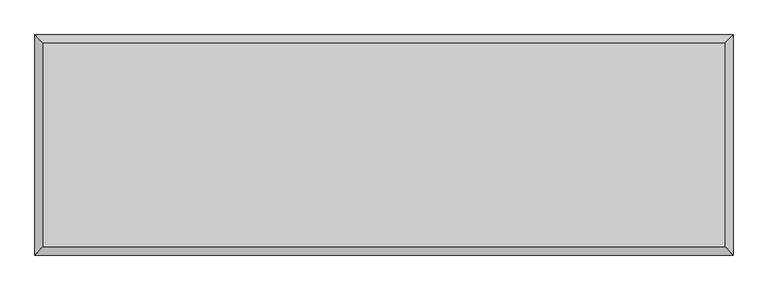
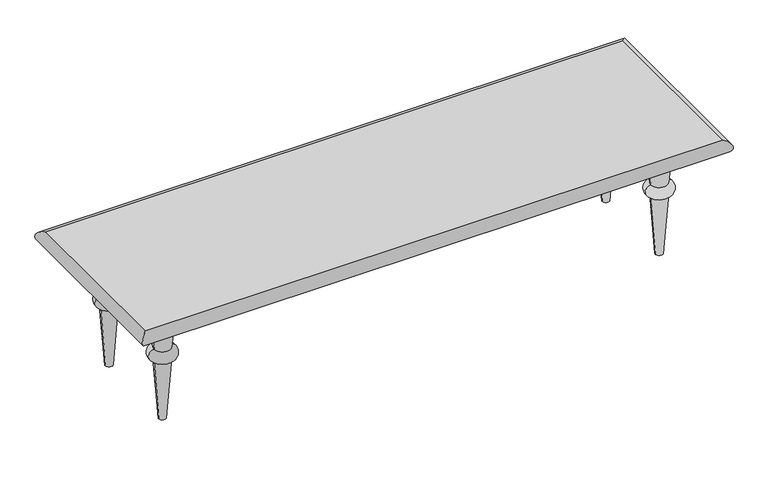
"""IFC4 building model written with IfcOpenShell, lengths in millimetres: furniture geometry, 1_25_Ручки для опорных плоскостей : 1_25_Ручки для опорных плоскостей."""

import ifcopenshell
import ifcopenshell.guid

model = None  # the IFC model being written
_history = None  # IfcOwnerHistory: only IFC2X3 demands one
_inside = {}  # id of a spatial element -> (the spatial element, [elements in it])
_under = {}  # id of a project, library or spatial element -> (it, [spatial elements below it])
_declared = {}  # id of a project -> (the project, [libraries it declares])
_typed = {}  # id of a type object -> (the type object, [elements of that type])
_made_of = {}  # id of a material, layer set ... -> (it, [elements and type objects made of it])


def new_model(schema):
    """Start an empty IFC model of exactly this schema.

    Asked for "IFC4X3", IfcOpenShell would pick the latest addendum, in which some entities
    have other attributes; the version numbers below select the first issue.
    IFC2X3 requires an IfcOwnerHistory on every rooted entity: one is made here for all.
    """
    global model, _history
    if schema == "IFC4X3":
        model = ifcopenshell.file(schema_version=(4, 3, 0, 0))
    else:
        model = ifcopenshell.file(schema=schema)
    _inside.clear()
    _under.clear()
    _declared.clear()
    _typed.clear()
    _made_of.clear()
    _history = None
    if model.schema == "IFC2X3":
        org = make("IfcOrganization", Name="unknown")
        user = make(
            "IfcPersonAndOrganization",
            ThePerson=make("IfcPerson", FamilyName="unknown"),
            TheOrganization=org,
        )
        app = make(
            "IfcApplication",
            ApplicationDeveloper=org,
            Version="unknown",
            ApplicationFullName="unknown",
            ApplicationIdentifier="unknown",
        )
        _history = make(
            "IfcOwnerHistory",
            OwningUser=user,
            OwningApplication=app,
            ChangeAction="ADDED",
            CreationDate=0,
        )
    return model


def make(cls, **values):
    """One entity of the class cls with the attributes given. An attribute that is None is left unset."""
    return model.create_entity(
        cls, **{name: value for name, value in values.items() if value is not None}
    )


def rooted(cls, **values):
    """An entity with a GlobalId (a new one), such as an element, a storey or a relation."""
    return make(cls, GlobalId=ifcopenshell.guid.new(), OwnerHistory=_history, **values)


def si_unit(unit_type, name, prefix=None):
    """IfcSIUnit, for example si_unit("LENGTHUNIT", "METRE", prefix="MILLI")."""
    return make("IfcSIUnit", UnitType=unit_type, Prefix=prefix, Name=name)


def assignment(units):
    """IfcUnitAssignment: the units of a project."""
    return None if units is None else make("IfcUnitAssignment", Units=units)


def point(xyz):
    """IfcCartesianPoint."""
    return None if xyz is None else make("IfcCartesianPoint", Coordinates=xyz)


def direction(xyz):
    """IfcDirection."""
    return None if xyz is None else make("IfcDirection", DirectionRatios=xyz)


def frame(location, z_axis=None, x_axis=None):
    """IfcAxis2Placement3D, a coordinate frame: its origin and axes. An axis left out is left unset."""
    return make(
        "IfcAxis2Placement3D",
        Location=point(location),
        Axis=direction(z_axis),
        RefDirection=direction(x_axis),
    )


def origin():
    """The frame at (0, 0, 0) with its axes left unset."""
    return frame((0.0, 0.0, 0.0))


def place(relative_to, where):
    """IfcLocalPlacement: puts the frame where relative to a parent placement (None: the world)."""
    return make(
        "IfcLocalPlacement", PlacementRelTo=relative_to, RelativePlacement=where
    )


def context(
    kind, dimensions, precision=None, world=None, true_north=None, identifier=None
):
    """IfcGeometricRepresentationContext, for example the 3D "Model" context."""
    return make(
        "IfcGeometricRepresentationContext",
        ContextIdentifier=identifier,
        ContextType=kind,
        CoordinateSpaceDimension=dimensions,
        Precision=precision,
        WorldCoordinateSystem=world,
        TrueNorth=true_north,
    )


def project(units=None, contexts=None):
    """IfcProject with its units and contexts."""
    return rooted(
        "IfcProject",
        Name="project",
        RepresentationContexts=contexts,
        UnitsInContext=assignment(units),
    )


def spatial(cls, under=None, at=None, **own):
    """A site, building, storey or space (cls), placed at a placement, below another one or the project."""
    s = rooted(cls, ObjectPlacement=at, **own)
    if under is not None:
        _under.setdefault(under.id(), (under, []))[1].append(s)
    return s


def polyline(points):
    """IfcPolyline through the points."""
    return make("IfcPolyline", Points=[point(p) for p in points])


def circle_curve(where, radius):
    """IfcCircle in the frame where."""
    return make("IfcCircle", Position=where, Radius=radius)


def ellipse_curve(where, semi_axis1, semi_axis2):
    """IfcEllipse in the frame where."""
    return make(
        "IfcEllipse", Position=where, SemiAxis1=semi_axis1, SemiAxis2=semi_axis2
    )


def trimmed(basis, trim1, trim2, sense, master):
    """IfcTrimmedCurve: the piece of a basis curve between two trims."""
    return make(
        "IfcTrimmedCurve",
        BasisCurve=basis,
        Trim1=trim1,
        Trim2=trim2,
        SenseAgreement=sense,
        MasterRepresentation=master,
    )


def shape(context_of_items, identifier, shape_type, items):
    """IfcShapeRepresentation: the items that make up one representation, for example the "Body"."""
    return make(
        "IfcShapeRepresentation",
        ContextOfItems=context_of_items,
        RepresentationIdentifier=identifier,
        RepresentationType=shape_type,
        Items=items,
    )


def source(mapping_origin, context_of_items, identifier, shape_type, items):
    """IfcRepresentationMap: a shape defined once, which mapped items show again and again."""
    return make(
        "IfcRepresentationMap",
        MappingOrigin=mapping_origin,
        MappedRepresentation=shape(context_of_items, identifier, shape_type, items),
    )


def transform(
    local_origin,
    x_axis=None,
    y_axis=None,
    z_axis=None,
    scale=None,
    scale2=None,
    scale3=None,
    uniform=True,
):
    """IfcCartesianTransformationOperator3D, or its non-uniform kind. x_axis, y_axis, z_axis: its Axis1, 2, 3."""
    if uniform:
        return make(
            "IfcCartesianTransformationOperator3D",
            Axis1=direction(x_axis),
            Axis2=direction(y_axis),
            LocalOrigin=point(local_origin),
            Scale=scale,
            Axis3=direction(z_axis),
        )
    return make(
        "IfcCartesianTransformationOperator3DnonUniform",
        Axis1=direction(x_axis),
        Axis2=direction(y_axis),
        LocalOrigin=point(local_origin),
        Scale=scale,
        Axis3=direction(z_axis),
        Scale2=scale2,
        Scale3=scale3,
    )


def mapped(mapping_source, mapping_target):
    """IfcMappedItem: shows the shape of a source again, moved by a transform."""
    return make(
        "IfcMappedItem", MappingSource=mapping_source, MappingTarget=mapping_target
    )


def made_of(thing, what):
    """Note that an element or type object is made of a material, layer set ...; save() writes the relation."""
    if what is not None:
        _made_of.setdefault(what.id(), (what, []))[1].append(thing)
    return thing


def element(
    cls,
    number,
    at=None,
    inside=None,
    cuts=None,
    type_object=None,
    material=None,
    context=None,
    identifier="Body",
    shape_type=None,
    held_by="IfcProductDefinitionShape",
    body=None,
    shapes=None,
    **own,
):
    """One element of the class cls, such as IfcWall. Its Tag is "e" and its number.

    at: its placement. inside: the storey or other place that contains it. cuts: it is an
    opening in that element (IfcRelVoidsElement). A single representation is given by context,
    identifier, shape_type and body (its items); several are given by shapes. held_by: the class
    of the entity that holds the representations. save() writes the other relations.
    """
    e = rooted(cls, Tag="e%d" % number, ObjectPlacement=at, **own)
    if body is not None:
        shapes = [shape(context, identifier, shape_type, body)]
    if shapes is not None:
        e.Representation = make(held_by, Representations=shapes)
    if inside is not None:
        _inside.setdefault(inside.id(), (inside, []))[1].append(e)
    if cuts is not None:
        rooted(
            "IfcRelVoidsElement", RelatingBuildingElement=cuts, RelatedOpeningElement=e
        )
    if type_object is not None:
        _typed.setdefault(type_object.id(), (type_object, []))[1].append(e)
    return made_of(e, material)


def aggregate(whole, parts):
    """IfcRelAggregates: a whole, such as a stair, and the parts it consists of."""
    return rooted("IfcRelAggregates", RelatingObject=whole, RelatedObjects=parts)


def save(model, path):
    """Write the relations noted so far, then the file.

    IfcRelAggregates (storeys below a building ...), IfcRelContainedInSpatialStructure (elements
    in a storey), IfcRelDefinesByType, IfcRelAssociatesMaterial and IfcRelDeclares: one each for
    every whole, place, type object, material and project.
    """
    for whole, parts in _under.values():
        aggregate(whole, parts)
    for where, things in _inside.values():
        rooted(
            "IfcRelContainedInSpatialStructure",
            RelatedElements=things,
            RelatingStructure=where,
        )
    for kind, things in _typed.values():
        rooted("IfcRelDefinesByType", RelatedObjects=things, RelatingType=kind)
    for what, things in _made_of.values():
        rooted("IfcRelAssociatesMaterial", RelatedObjects=things, RelatingMaterial=what)
    for by, libraries in _declared.values():
        rooted("IfcRelDeclares", RelatingContext=by, RelatedDefinitions=libraries)
    model.write(path)


def plane_surface(at):
    """IfcPlane: the flat surface through the origin of the frame at, square to its z axis."""
    return make("IfcPlane", Position=at)


def cylinder_surface(at, radius):
    """IfcCylindricalSurface: all points at the distance radius from the z axis of the frame at."""
    return make("IfcCylindricalSurface", Position=at, Radius=radius)


def revolved_surface(curve, axis_point, axis_direction):
    """IfcSurfaceOfRevolution: the curve turned about the line through axis_point along axis_direction."""
    return make(
        "IfcSurfaceOfRevolution",
        SweptCurve=make("IfcArbitraryOpenProfileDef", ProfileType="CURVE", Curve=curve),
        AxisPosition=make("IfcAxis1Placement", Location=point(axis_point), Axis=direction(axis_direction)),
    )


def advanced_brep(points, edges, surfaces, faces):
    """IfcAdvancedBrep: a solid bounded by faces that lie on surfaces and meet in shared edges.

    An edge is (start, end): straight between two places in points (the first is 0);
    or (start, end, curve); or (start, end, curve, False) where it runs against its curve.
    A face is (place in surfaces, loops), or (place, loops, False) where it looks against
    its surface's normal. A loop lists edges by number (the first is 1), with a minus sign
    where the edge is run from its end to its start. The first loop is the outer one.
    """
    corners = [point(p) for p in points]
    vertices = [make("IfcVertexPoint", VertexGeometry=c) for c in corners]
    made = []
    for start, end, *more in edges:
        made.append(
            make(
                "IfcEdgeCurve",
                EdgeStart=vertices[start],
                EdgeEnd=vertices[end],
                EdgeGeometry=more[0] if more else make("IfcPolyline", Points=[corners[start], corners[end]]),
                SameSense=more[1] if len(more) > 1 else True,
            )
        )
    hull = []
    for where, loops, *sense in faces:
        bounds = []
        for j, loop in enumerate(loops):
            ring = [make("IfcOrientedEdge", EdgeElement=made[abs(k) - 1], Orientation=k > 0) for k in loop]
            bounds.append(
                make(
                    "IfcFaceOuterBound" if j == 0 else "IfcFaceBound",
                    Bound=make("IfcEdgeLoop", EdgeList=ring),
                    Orientation=True,
                )
            )
        hull.append(make("IfcAdvancedFace", Bounds=bounds, FaceSurface=surfaces[where], SameSense=sense[0] if sense else True))
    return make("IfcAdvancedBrep", Outer=make("IfcClosedShell", CfsFaces=hull))


def furniture_e70da886(model_context):
    return source(origin(), model_context, "Body", "AdvancedBrep", [
        advanced_brep(
        [(-2000.0, -600.0, 900.0), (-2000.0, -600.0, 810.0), (2000.0, -600.0, 810.0), (2000.0, -600.0, 900.0), (2000.0, 600.0, 810.0), (2000.0, 600.0, 900.0), (-2000.0, 600.0, 810.0), (-2000.0, 600.0, 900.0)],
        [
            (0, 1, ellipse_curve(frame((-2000.0, -600.0, 855.0), z_axis=(0.7071067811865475, -0.7071067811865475, 0.0), x_axis=(-0.7071067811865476, -0.7071067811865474, 0.0)), 63.6396103, 45.0)),
            (1, 2),
            (2, 3, ellipse_curve(frame((2000.0, -600.0, 855.0), z_axis=(-0.7071067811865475, -0.7071067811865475, 0.0), x_axis=(-0.7071067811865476, 0.7071067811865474, 0.0)), 63.6396103, 45.0)),
            (3, 0),
            (2, 4),
            (4, 5, ellipse_curve(frame((2000.0, 600.0, 855.0), z_axis=(0.7071067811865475, -0.7071067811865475, 0.0), x_axis=(-0.7071067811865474, -0.7071067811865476, 0.0)), 63.6396103, 45.0)),
            (5, 3),
            (4, 6),
            (6, 7, ellipse_curve(frame((-2000.0, 600.0, 855.0), z_axis=(0.7071067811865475, 0.7071067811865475, 0.0), x_axis=(0.7071067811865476, -0.7071067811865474, 0.0)), 63.6396103, 45.0)),
            (7, 5),
            (0, 7),
            (6, 1),
        ],
        [
            cylinder_surface(frame((-2000.0, -600.0, 855.0), z_axis=(-1.0, 0.0, 0.0), x_axis=(0.0, 1.0, 0.0)), 45.0),
            cylinder_surface(frame((2000.0, -600.0, 855.0), z_axis=(0.0, -1.0, 0.0), x_axis=(-1.0, 0.0, 0.0)), 45.0),
            cylinder_surface(frame((2000.0, 600.0, 855.0), z_axis=(1.0, 0.0, 0.0), x_axis=(0.0, -1.0, 0.0)), 45.0),
            cylinder_surface(frame((-2000.0, 600.0, 855.0), z_axis=(0.0, 1.0, 0.0), x_axis=(1.0, 0.0, 0.0)), 45.0),
            plane_surface(frame((-2000.0, 600.0, 900.0), z_axis=(0.0, 0.0, 1.0), x_axis=(-1.0, 0.0, 0.0))),
            plane_surface(frame((-2000.0, 600.0, 810.0), z_axis=(0.0, 0.0, -1.0), x_axis=(1.0, 0.0, 0.0))),
        ],
        [
            (0, [[1, 2, 3, 4]]),
            (1, [[-3, 5, 6, 7]]),
            (2, [[-6, 8, 9, 10]]),
            (3, [[-1, 11, -9, 12]]),
            (4, [[-4, -7, -10, -11]]),
            (5, [[-2, -12, -8, -5]]),
        ],
    ),
        advanced_brep(
        [(1695.0204938, 320.0, 0.0), (1744.9795062, 320.0, 0.0), (1777.0879779, 320.0, 439.1725378), (1662.9120221, 320.0, 439.1725378), (1777.0879779, 320.0, 519.1725378), (1662.9120221, 320.0, 519.1725378), (1803.0131284, 320.0, 810.0), (1636.9868716, 320.0, 810.0), (1720.0, 320.0, 810.0), (1720.0, 320.0, 0.0)],
        [
            (0, 1, circle_curve(frame((1720.0, 320.0, 0.0), z_axis=(0.0, 0.0, 1.0), x_axis=(1.0, 0.0, 0.0)), 24.9795062)),
            (1, 2),
            (2, 3, circle_curve(frame((1720.0, 320.0, 439.1725378), z_axis=(0.0, 0.0, -1.0), x_axis=(1.0, 0.0, 0.0)), 57.0879779)),
            (3, 0),
            (1, 0, circle_curve(frame((1720.0, 320.0, 0.0), z_axis=(0.0, 0.0, 1.0), x_axis=(1.0, 0.0, 0.0)), 24.9795062)),
            (3, 2, circle_curve(frame((1720.0, 320.0, 439.1725378), z_axis=(0.0, 0.0, -1.0), x_axis=(1.0, 0.0, 0.0)), 57.0879779)),
            (2, 4, circle_curve(frame((1777.0879779, 320.0, 479.1725378), z_axis=(0.0, -1.0, 0.0), x_axis=(1.0, 0.0, 0.0)), 40.0)),
            (4, 5, circle_curve(frame((1720.0, 320.0, 519.1725378), z_axis=(0.0, 0.0, -1.0), x_axis=(1.0, 0.0, 0.0)), 57.0879779)),
            (5, 3, circle_curve(frame((1662.9120221, 320.0, 479.1725378), z_axis=(0.0, -1.0, 0.0), x_axis=(-1.0, 0.0, 0.0)), 40.0)),
            (5, 4, circle_curve(frame((1720.0, 320.0, 519.1725378), z_axis=(0.0, 0.0, -1.0), x_axis=(1.0, 0.0, 0.0)), 57.0879779)),
            (4, 6),
            (6, 7, circle_curve(frame((1720.0, 320.0, 810.0), z_axis=(0.0, 0.0, -1.0), x_axis=(1.0, 0.0, 0.0)), 83.0131284)),
            (7, 5),
            (7, 6, circle_curve(frame((1720.0, 320.0, 810.0), z_axis=(0.0, 0.0, -1.0), x_axis=(1.0, 0.0, 0.0)), 83.0131284)),
            (6, 8),
            (8, 7),
            (9, 1),
            (0, 9),
        ],
        [
            revolved_surface(polyline([(1777.0879779, 320.0, 439.1725378), (1744.9795062, 320.0, 0.0)]), (1720.0, 320.0, 2438.6930747), (0.0, 0.0, -1.0)),
            revolved_surface(trimmed(ellipse_curve(frame((1777.0879779, 320.0, 479.1725378), z_axis=(0.0, 1.0, 0.0), x_axis=(1.0, 0.0, 0.0)), 40.0, 40.0), [point((1777.0879779, 320.0, 519.1725378))], [point((1777.0879779, 320.0, 439.1725378))], True, "CARTESIAN"), (1720.0, 320.0, 2438.6930747), (0.0, 0.0, -1.0)),
            revolved_surface(polyline([(1803.0131284, 320.0, 810.0), (1777.0879779, 320.0, 519.1725378)]), (1720.0, 320.0, 2438.6930747), (0.0, 0.0, -1.0)),
            plane_surface(frame((1720.0, 320.0, 810.0), z_axis=(0.0, 0.0, 1.0), x_axis=(1.0, 0.0, 0.0))),
            plane_surface(frame((1720.0, 320.0, 0.0), z_axis=(0.0, 0.0, -1.0), x_axis=(1.0, 0.0, 0.0))),
        ],
        [
            (0, [[1, 2, 3, 4]]),
            (0, [[5, -4, 6, -2]]),
            (1, [[-3, 7, 8, 9]]),
            (1, [[-6, -9, 10, -7]]),
            (2, [[-8, 11, 12, 13]]),
            (2, [[-10, -13, 14, -11]]),
            (3, [[-12, 15, 16]]),
            (3, [[-14, -16, -15]]),
            (4, [[17, -1, 18]]),
            (4, [[-18, -5, -17]]),
        ],
    ),
        advanced_brep(
        [(-1662.9120221, 320.0, 439.1725378), (-1777.0879779, 320.0, 439.1725378), (-1744.9795062, 320.0, 0.0), (-1695.0204938, 320.0, 0.0), (-1662.9120221, 320.0, 519.1725378), (-1777.0879779, 320.0, 519.1725378), (-1636.9868716, 320.0, 810.0), (-1803.0131284, 320.0, 810.0), (-1720.0, 320.0, 810.0), (-1720.0, 320.0, 0.0)],
        [
            (0, 1, circle_curve(frame((-1720.0, 320.0, 439.1725378), z_axis=(0.0, 0.0, -1.0), x_axis=(-1.0, 0.0, 0.0)), 57.0879779)),
            (1, 2),
            (2, 3, circle_curve(frame((-1720.0, 320.0, 0.0), z_axis=(0.0, 0.0, 1.0), x_axis=(-1.0, 0.0, 0.0)), 24.9795062)),
            (3, 0),
            (1, 0, circle_curve(frame((-1720.0, 320.0, 439.1725378), z_axis=(0.0, 0.0, -1.0), x_axis=(-1.0, 0.0, 0.0)), 57.0879779)),
            (3, 2, circle_curve(frame((-1720.0, 320.0, 0.0), z_axis=(0.0, 0.0, 1.0), x_axis=(-1.0, 0.0, 0.0)), 24.9795062)),
            (4, 5, circle_curve(frame((-1720.0, 320.0, 519.1725378), z_axis=(0.0, 0.0, -1.0), x_axis=(-1.0, 0.0, 0.0)), 57.0879779)),
            (5, 1, circle_curve(frame((-1777.0879779, 320.0, 479.1725378), z_axis=(0.0, -1.0, 0.0), x_axis=(-1.0, 0.0, 0.0)), 40.0)),
            (0, 4, circle_curve(frame((-1662.9120221, 320.0, 479.1725378), z_axis=(0.0, -1.0, 0.0), x_axis=(1.0, 0.0, 0.0)), 40.0)),
            (5, 4, circle_curve(frame((-1720.0, 320.0, 519.1725378), z_axis=(0.0, 0.0, -1.0), x_axis=(-1.0, 0.0, 0.0)), 57.0879779)),
            (6, 7, circle_curve(frame((-1720.0, 320.0, 810.0), z_axis=(0.0, 0.0, -1.0), x_axis=(-1.0, 0.0, 0.0)), 83.0131284)),
            (7, 5),
            (4, 6),
            (7, 6, circle_curve(frame((-1720.0, 320.0, 810.0), z_axis=(0.0, 0.0, -1.0), x_axis=(-1.0, 0.0, 0.0)), 83.0131284)),
            (8, 7),
            (6, 8),
            (2, 9),
            (9, 3),
        ],
        [
            revolved_surface(polyline([(-1744.9795062, 320.0, 0.0), (-1777.0879779, 320.0, 439.1725378)]), (-1720.0, 320.0, 2438.6930747), (0.0, 0.0, 1.0)),
            revolved_surface(trimmed(ellipse_curve(frame((-1777.0879779, 320.0, 479.1725378), z_axis=(0.0, 1.0, 0.0), x_axis=(-1.0, 0.0, 0.0)), 40.0, 40.0), [point((-1777.0879779, 320.0, 439.1725378))], [point((-1777.0879779, 320.0, 519.1725378))], True, "CARTESIAN"), (-1720.0, 320.0, 2438.6930747), (0.0, 0.0, 1.0)),
            revolved_surface(polyline([(-1777.0879779, 320.0, 519.1725378), (-1803.0131284, 320.0, 810.0)]), (-1720.0, 320.0, 2438.6930747), (0.0, 0.0, 1.0)),
            plane_surface(frame((-1720.0, 320.0, 810.0), z_axis=(0.0, 0.0, 1.0), x_axis=(-1.0, 0.0, 0.0))),
            plane_surface(frame((-1720.0, 320.0, 0.0), z_axis=(0.0, 0.0, -1.0), x_axis=(-1.0, 0.0, 0.0))),
        ],
        [
            (0, [[1, 2, 3, 4]]),
            (0, [[5, -4, 6, -2]]),
            (1, [[7, 8, -1, 9]]),
            (1, [[10, -9, -5, -8]]),
            (2, [[11, 12, -7, 13]]),
            (2, [[14, -13, -10, -12]]),
            (3, [[15, -11, 16]]),
            (3, [[-16, -14, -15]]),
            (4, [[-3, 17, 18]]),
            (4, [[-6, -18, -17]]),
        ],
    ),
        advanced_brep(
        [(1695.0, -320.0, 0.0), (1745.0, -320.0, 0.0), (1777.0879779, -320.0, 438.8794631), (1662.9120221, -320.0, 438.8794631), (1777.0879779, -320.0, 518.8794631), (1662.9120221, -320.0, 518.8794631), (1803.0392539, -320.0, 810.0), (1636.9607461, -320.0, 810.0), (1720.0, -320.0, 810.0), (1720.0, -320.0, 0.0)],
        [
            (0, 1, circle_curve(frame((1720.0, -320.0, 0.0), z_axis=(0.0, 0.0, 1.0), x_axis=(1.0, 0.0, 0.0)), 25.0)),
            (1, 2),
            (2, 3, circle_curve(frame((1720.0, -320.0, 438.8794631), z_axis=(0.0, 0.0, -1.0), x_axis=(1.0, 0.0, 0.0)), 57.0879779)),
            (3, 0),
            (1, 0, circle_curve(frame((1720.0, -320.0, 0.0), z_axis=(0.0, 0.0, 1.0), x_axis=(1.0, 0.0, 0.0)), 25.0)),
            (3, 2, circle_curve(frame((1720.0, -320.0, 438.8794631), z_axis=(0.0, 0.0, -1.0), x_axis=(1.0, 0.0, 0.0)), 57.0879779)),
            (2, 4, circle_curve(frame((1777.0879779, -320.0, 478.8794631), z_axis=(0.0, -1.0, 0.0), x_axis=(1.0, 0.0, 0.0)), 40.0)),
            (4, 5, circle_curve(frame((1720.0, -320.0, 518.8794631), z_axis=(0.0, 0.0, -1.0), x_axis=(1.0, 0.0, 0.0)), 57.0879779)),
            (5, 3, circle_curve(frame((1662.9120221, -320.0, 478.8794631), z_axis=(0.0, -1.0, 0.0), x_axis=(-1.0, 0.0, 0.0)), 40.0)),
            (5, 4, circle_curve(frame((1720.0, -320.0, 518.8794631), z_axis=(0.0, 0.0, -1.0), x_axis=(1.0, 0.0, 0.0)), 57.0879779)),
            (4, 6),
            (6, 7, circle_curve(frame((1720.0, -320.0, 810.0), z_axis=(0.0, 0.0, -1.0), x_axis=(1.0, 0.0, 0.0)), 83.0392539)),
            (7, 5),
            (7, 6, circle_curve(frame((1720.0, -320.0, 810.0), z_axis=(0.0, 0.0, -1.0), x_axis=(1.0, 0.0, 0.0)), 83.0392539)),
            (6, 8),
            (8, 7),
            (9, 1),
            (0, 9),
        ],
        [
            revolved_surface(polyline([(1777.0879779, -320.0, 438.8794631), (1745.0, -320.0, 0.0)]), (1720.0, -320.0, 2438.4), (0.0, 0.0, -1.0)),
            revolved_surface(trimmed(ellipse_curve(frame((1777.0879779, -320.0, 478.8794631), z_axis=(0.0, 1.0, 0.0), x_axis=(1.0, 0.0, 0.0)), 40.0, 40.0), [point((1777.0879779, -320.0, 518.8794631))], [point((1777.0879779, -320.0, 438.8794631))], True, "CARTESIAN"), (1720.0, -320.0, 2438.4), (0.0, 0.0, -1.0)),
            revolved_surface(polyline([(1803.0392539, -320.0, 810.0), (1777.0879779, -320.0, 518.8794631)]), (1720.0, -320.0, 2438.4), (0.0, 0.0, -1.0)),
            plane_surface(frame((1720.0, -320.0, 810.0), z_axis=(0.0, 0.0, 1.0), x_axis=(1.0, 0.0, 0.0))),
            plane_surface(frame((1720.0, -320.0, 0.0), z_axis=(0.0, 0.0, -1.0), x_axis=(1.0, 0.0, 0.0))),
        ],
        [
            (0, [[1, 2, 3, 4]]),
            (0, [[5, -4, 6, -2]]),
            (1, [[-3, 7, 8, 9]]),
            (1, [[-6, -9, 10, -7]]),
            (2, [[-8, 11, 12, 13]]),
            (2, [[-10, -13, 14, -11]]),
            (3, [[-12, 15, 16]]),
            (3, [[-14, -16, -15]]),
            (4, [[17, -1, 18]]),
            (4, [[-18, -5, -17]]),
        ],
    ),
        advanced_brep(
        [(-1662.9120221, -320.0, 438.8794631), (-1777.0879779, -320.0, 438.8794631), (-1745.0, -320.0, 0.0), (-1695.0, -320.0, 0.0), (-1662.9120221, -320.0, 518.8794631), (-1777.0879779, -320.0, 518.8794631), (-1636.9607461, -320.0, 810.0), (-1803.0392539, -320.0, 810.0), (-1720.0, -320.0, 810.0), (-1720.0, -320.0, 0.0)],
        [
            (0, 1, circle_curve(frame((-1720.0, -320.0, 438.8794631), z_axis=(0.0, 0.0, -1.0), x_axis=(-1.0, 0.0, 0.0)), 57.0879779)),
            (1, 2),
            (2, 3, circle_curve(frame((-1720.0, -320.0, 0.0), z_axis=(0.0, 0.0, 1.0), x_axis=(-1.0, 0.0, 0.0)), 25.0)),
            (3, 0),
            (1, 0, circle_curve(frame((-1720.0, -320.0, 438.8794631), z_axis=(0.0, 0.0, -1.0), x_axis=(-1.0, 0.0, 0.0)), 57.0879779)),
            (3, 2, circle_curve(frame((-1720.0, -320.0, 0.0), z_axis=(0.0, 0.0, 1.0), x_axis=(-1.0, 0.0, 0.0)), 25.0)),
            (4, 5, circle_curve(frame((-1720.0, -320.0, 518.8794631), z_axis=(0.0, 0.0, -1.0), x_axis=(-1.0, 0.0, 0.0)), 57.0879779)),
            (5, 1, circle_curve(frame((-1777.0879779, -320.0, 478.8794631), z_axis=(0.0, -1.0, 0.0), x_axis=(-1.0, 0.0, 0.0)), 40.0)),
            (0, 4, circle_curve(frame((-1662.9120221, -320.0, 478.8794631), z_axis=(0.0, -1.0, 0.0), x_axis=(1.0, 0.0, 0.0)), 40.0)),
            (5, 4, circle_curve(frame((-1720.0, -320.0, 518.8794631), z_axis=(0.0, 0.0, -1.0), x_axis=(-1.0, 0.0, 0.0)), 57.0879779)),
            (6, 7, circle_curve(frame((-1720.0, -320.0, 810.0), z_axis=(0.0, 0.0, -1.0), x_axis=(-1.0, 0.0, 0.0)), 83.0392539)),
            (7, 5),
            (4, 6),
            (7, 6, circle_curve(frame((-1720.0, -320.0, 810.0), z_axis=(0.0, 0.0, -1.0), x_axis=(-1.0, 0.0, 0.0)), 83.0392539)),
            (8, 7),
            (6, 8),
            (2, 9),
            (9, 3),
        ],
        [
            revolved_surface(polyline([(-1745.0, -320.0, 0.0), (-1777.0879779, -320.0, 438.8794631)]), (-1720.0, -320.0, 2438.4), (0.0, 0.0, 1.0)),
            revolved_surface(trimmed(ellipse_curve(frame((-1777.0879779, -320.0, 478.8794631), z_axis=(0.0, 1.0, 0.0), x_axis=(-1.0, 0.0, 0.0)), 40.0, 40.0), [point((-1777.0879779, -320.0, 438.8794631))], [point((-1777.0879779, -320.0, 518.8794631))], True, "CARTESIAN"), (-1720.0, -320.0, 2438.4), (0.0, 0.0, 1.0)),
            revolved_surface(polyline([(-1777.0879779, -320.0, 518.8794631), (-1803.0392539, -320.0, 810.0)]), (-1720.0, -320.0, 2438.4), (0.0, 0.0, 1.0)),
            plane_surface(frame((-1720.0, -320.0, 810.0), z_axis=(0.0, 0.0, 1.0), x_axis=(-1.0, 0.0, 0.0))),
            plane_surface(frame((-1720.0, -320.0, 0.0), z_axis=(0.0, 0.0, -1.0), x_axis=(-1.0, 0.0, 0.0))),
        ],
        [
            (0, [[1, 2, 3, 4]]),
            (0, [[5, -4, 6, -2]]),
            (1, [[7, 8, -1, 9]]),
            (1, [[10, -9, -5, -8]]),
            (2, [[11, 12, -7, 13]]),
            (2, [[14, -13, -10, -12]]),
            (3, [[15, -11, 16]]),
            (3, [[-16, -14, -15]]),
            (4, [[-3, 17, 18]]),
            (4, [[-6, -18, -17]]),
        ],
    ),
    ])


if __name__ == "__main__":
    model = new_model("IFC4")
    model_context = context("Model", 3, world=origin())
    ifc_project = project(units=[si_unit("LENGTHUNIT", "METRE", prefix="MILLI")], contexts=[model_context])
    site = spatial("IfcSite", under=ifc_project)
    building = spatial("IfcBuilding", under=site)
    placement = place(None, origin())
    furniture_shape = furniture_e70da886(model_context)
    element("IfcFurniture", 1, ObjectType="1_25_Ручки для опорных плоскостей : 1_25_Ручки для опорных плоскостей", at=placement, inside=building, context=model_context, shape_type="MappedRepresentation", body=[
        mapped(furniture_shape, transform((0.0, 0.0, 0.0), x_axis=(1.0, 0.0, 0.0), y_axis=(0.0, 1.0, 0.0), z_axis=(0.0, 0.0, 1.0))),
    ])
    save(model, "model.ifc")
